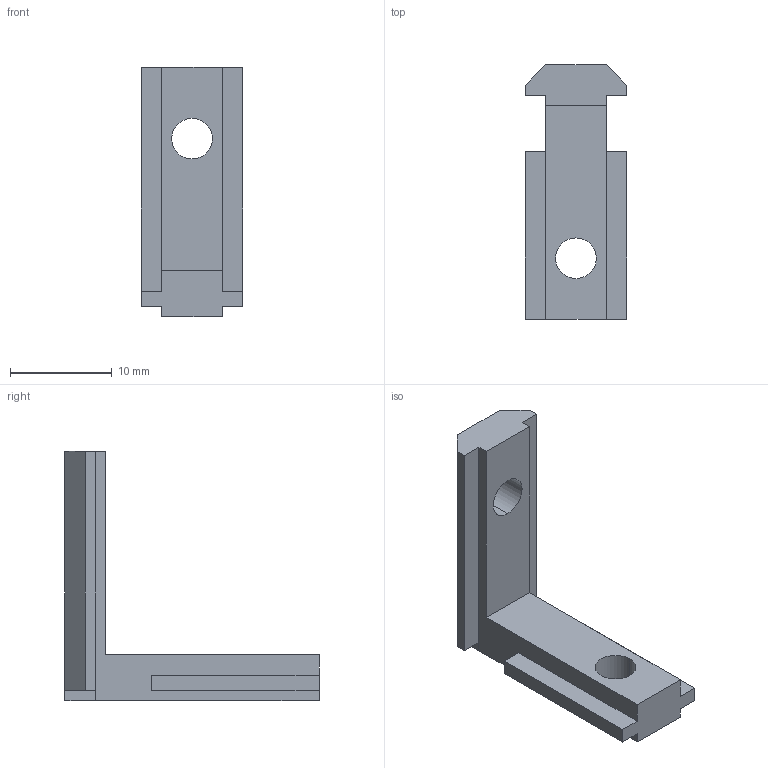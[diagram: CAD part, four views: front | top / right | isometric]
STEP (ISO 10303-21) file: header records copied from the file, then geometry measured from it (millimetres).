
FILE_DESCRIPTION (( 'STEP AP203' ), '1' );
FILE_NAME ('2004.STEP', '2016-03-23T16:05:33', ( '' ), ( '' ), 'SwSTEP 2.0', 'SolidWorks 2014', '' );
FILE_SCHEMA (( 'CONFIG_CONTROL_DESIGN' ));
Length unit declared in the file: millimetre
Products named in the file (1): 2004
Bounding box: 9.99 x 25 x 24.5 mm (x, y, z)
Volume: 1334.4 mm3; surface area: 1328.2 mm2
Topology: 1 solids, 1 shells, 30 faces, 80 edges, 52 vertices
Faces by surface type: plane 26, cylinder 4
Entity records: 1005 total; most frequent: CARTESIAN_POINT 163, ORIENTED_EDGE 160, DIRECTION 150, EDGE_CURVE 80, VECTOR 72, LINE 72, VERTEX_POINT 52, AXIS2_PLACEMENT_3D 39
